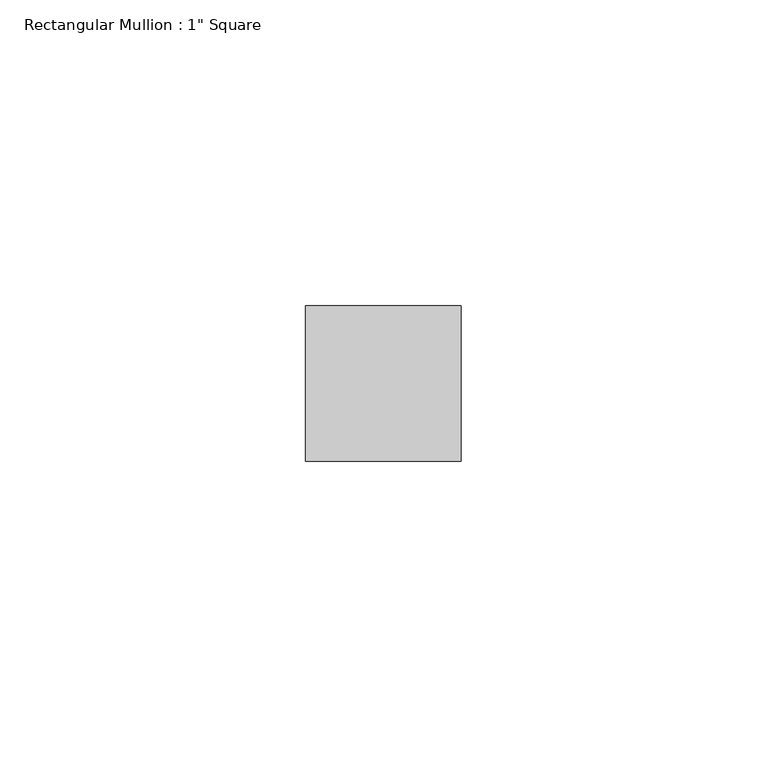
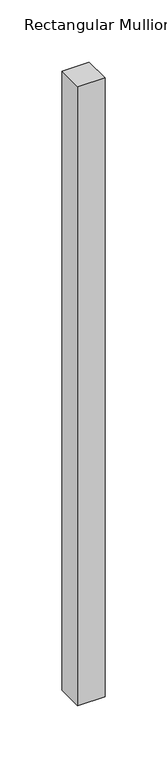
"""IFC4 building model written with IfcOpenShell, lengths in millimetres: member geometry."""

import ifcopenshell
import ifcopenshell.guid

model = None  # the IFC model being written
_history = None  # IfcOwnerHistory: only IFC2X3 demands one
_inside = {}  # id of a spatial element -> (the spatial element, [elements in it])
_under = {}  # id of a project, library or spatial element -> (it, [spatial elements below it])
_declared = {}  # id of a project -> (the project, [libraries it declares])
_typed = {}  # id of a type object -> (the type object, [elements of that type])
_made_of = {}  # id of a material, layer set ... -> (it, [elements and type objects made of it])


def new_model(schema):
    """Start an empty IFC model of exactly this schema.

    Asked for "IFC4X3", IfcOpenShell would pick the latest addendum, in which some entities
    have other attributes; the version numbers below select the first issue.
    IFC2X3 requires an IfcOwnerHistory on every rooted entity: one is made here for all.
    """
    global model, _history
    if schema == "IFC4X3":
        model = ifcopenshell.file(schema_version=(4, 3, 0, 0))
    else:
        model = ifcopenshell.file(schema=schema)
    _inside.clear()
    _under.clear()
    _declared.clear()
    _typed.clear()
    _made_of.clear()
    _history = None
    if model.schema == "IFC2X3":
        org = make("IfcOrganization", Name="unknown")
        user = make(
            "IfcPersonAndOrganization",
            ThePerson=make("IfcPerson", FamilyName="unknown"),
            TheOrganization=org,
        )
        app = make(
            "IfcApplication",
            ApplicationDeveloper=org,
            Version="unknown",
            ApplicationFullName="unknown",
            ApplicationIdentifier="unknown",
        )
        _history = make(
            "IfcOwnerHistory",
            OwningUser=user,
            OwningApplication=app,
            ChangeAction="ADDED",
            CreationDate=0,
        )
    return model


def make(cls, **values):
    """One entity of the class cls with the attributes given. An attribute that is None is left unset."""
    return model.create_entity(
        cls, **{name: value for name, value in values.items() if value is not None}
    )


def rooted(cls, **values):
    """An entity with a GlobalId (a new one), such as an element, a storey or a relation."""
    return make(cls, GlobalId=ifcopenshell.guid.new(), OwnerHistory=_history, **values)


def si_unit(unit_type, name, prefix=None):
    """IfcSIUnit, for example si_unit("LENGTHUNIT", "METRE", prefix="MILLI")."""
    return make("IfcSIUnit", UnitType=unit_type, Prefix=prefix, Name=name)


def assignment(units):
    """IfcUnitAssignment: the units of a project."""
    return None if units is None else make("IfcUnitAssignment", Units=units)


def point(xyz):
    """IfcCartesianPoint."""
    return None if xyz is None else make("IfcCartesianPoint", Coordinates=xyz)


def direction(xyz):
    """IfcDirection."""
    return None if xyz is None else make("IfcDirection", DirectionRatios=xyz)


def frame(location, z_axis=None, x_axis=None):
    """IfcAxis2Placement3D, a coordinate frame: its origin and axes. An axis left out is left unset."""
    return make(
        "IfcAxis2Placement3D",
        Location=point(location),
        Axis=direction(z_axis),
        RefDirection=direction(x_axis),
    )


def origin():
    """The frame at (0, 0, 0) with its axes left unset."""
    return frame((0.0, 0.0, 0.0))


def place(relative_to, where):
    """IfcLocalPlacement: puts the frame where relative to a parent placement (None: the world)."""
    return make(
        "IfcLocalPlacement", PlacementRelTo=relative_to, RelativePlacement=where
    )


def context(
    kind, dimensions, precision=None, world=None, true_north=None, identifier=None
):
    """IfcGeometricRepresentationContext, for example the 3D "Model" context."""
    return make(
        "IfcGeometricRepresentationContext",
        ContextIdentifier=identifier,
        ContextType=kind,
        CoordinateSpaceDimension=dimensions,
        Precision=precision,
        WorldCoordinateSystem=world,
        TrueNorth=true_north,
    )


def project(units=None, contexts=None):
    """IfcProject with its units and contexts."""
    return rooted(
        "IfcProject",
        Name="project",
        RepresentationContexts=contexts,
        UnitsInContext=assignment(units),
    )


def spatial(cls, under=None, at=None, **own):
    """A site, building, storey or space (cls), placed at a placement, below another one or the project."""
    s = rooted(cls, ObjectPlacement=at, **own)
    if under is not None:
        _under.setdefault(under.id(), (under, []))[1].append(s)
    return s


def polyline(points):
    """IfcPolyline through the points."""
    return make("IfcPolyline", Points=[point(p) for p in points])


def outline(outer, holes=None, kind="AREA"):
    """IfcArbitraryClosedProfileDef: a profile drawn as a closed curve; with holes, ...WithVoids."""
    if holes is None:
        return make("IfcArbitraryClosedProfileDef", ProfileType=kind, OuterCurve=outer)
    return make(
        "IfcArbitraryProfileDefWithVoids",
        ProfileType=kind,
        OuterCurve=outer,
        InnerCurves=holes,
    )


def extrude(swept, where, along, depth):
    """IfcExtrudedAreaSolid: the profile swept, set in the frame where, extruded along a direction by depth."""
    return make(
        "IfcExtrudedAreaSolid",
        SweptArea=swept,
        Position=where,
        ExtrudedDirection=direction(along),
        Depth=depth,
    )


def shape(context_of_items, identifier, shape_type, items):
    """IfcShapeRepresentation: the items that make up one representation, for example the "Body"."""
    return make(
        "IfcShapeRepresentation",
        ContextOfItems=context_of_items,
        RepresentationIdentifier=identifier,
        RepresentationType=shape_type,
        Items=items,
    )


def source(mapping_origin, context_of_items, identifier, shape_type, items):
    """IfcRepresentationMap: a shape defined once, which mapped items show again and again."""
    return make(
        "IfcRepresentationMap",
        MappingOrigin=mapping_origin,
        MappedRepresentation=shape(context_of_items, identifier, shape_type, items),
    )


def transform(
    local_origin,
    x_axis=None,
    y_axis=None,
    z_axis=None,
    scale=None,
    scale2=None,
    scale3=None,
    uniform=True,
):
    """IfcCartesianTransformationOperator3D, or its non-uniform kind. x_axis, y_axis, z_axis: its Axis1, 2, 3."""
    if uniform:
        return make(
            "IfcCartesianTransformationOperator3D",
            Axis1=direction(x_axis),
            Axis2=direction(y_axis),
            LocalOrigin=point(local_origin),
            Scale=scale,
            Axis3=direction(z_axis),
        )
    return make(
        "IfcCartesianTransformationOperator3DnonUniform",
        Axis1=direction(x_axis),
        Axis2=direction(y_axis),
        LocalOrigin=point(local_origin),
        Scale=scale,
        Axis3=direction(z_axis),
        Scale2=scale2,
        Scale3=scale3,
    )


def mapped(mapping_source, mapping_target):
    """IfcMappedItem: shows the shape of a source again, moved by a transform."""
    return make(
        "IfcMappedItem", MappingSource=mapping_source, MappingTarget=mapping_target
    )


def made_of(thing, what):
    """Note that an element or type object is made of a material, layer set ...; save() writes the relation."""
    if what is not None:
        _made_of.setdefault(what.id(), (what, []))[1].append(thing)
    return thing


def element(
    cls,
    number,
    at=None,
    inside=None,
    cuts=None,
    type_object=None,
    material=None,
    context=None,
    identifier="Body",
    shape_type=None,
    held_by="IfcProductDefinitionShape",
    body=None,
    shapes=None,
    **own,
):
    """One element of the class cls, such as IfcWall. Its Tag is "e" and its number.

    at: its placement. inside: the storey or other place that contains it. cuts: it is an
    opening in that element (IfcRelVoidsElement). A single representation is given by context,
    identifier, shape_type and body (its items); several are given by shapes. held_by: the class
    of the entity that holds the representations. save() writes the other relations.
    """
    e = rooted(cls, Tag="e%d" % number, ObjectPlacement=at, **own)
    if body is not None:
        shapes = [shape(context, identifier, shape_type, body)]
    if shapes is not None:
        e.Representation = make(held_by, Representations=shapes)
    if inside is not None:
        _inside.setdefault(inside.id(), (inside, []))[1].append(e)
    if cuts is not None:
        rooted(
            "IfcRelVoidsElement", RelatingBuildingElement=cuts, RelatedOpeningElement=e
        )
    if type_object is not None:
        _typed.setdefault(type_object.id(), (type_object, []))[1].append(e)
    return made_of(e, material)


def aggregate(whole, parts):
    """IfcRelAggregates: a whole, such as a stair, and the parts it consists of."""
    return rooted("IfcRelAggregates", RelatingObject=whole, RelatedObjects=parts)


def save(model, path):
    """Write the relations noted so far, then the file.

    IfcRelAggregates (storeys below a building ...), IfcRelContainedInSpatialStructure (elements
    in a storey), IfcRelDefinesByType, IfcRelAssociatesMaterial and IfcRelDeclares: one each for
    every whole, place, type object, material and project.
    """
    for whole, parts in _under.values():
        aggregate(whole, parts)
    for where, things in _inside.values():
        rooted(
            "IfcRelContainedInSpatialStructure",
            RelatedElements=things,
            RelatingStructure=where,
        )
    for kind, things in _typed.values():
        rooted("IfcRelDefinesByType", RelatedObjects=things, RelatingType=kind)
    for what, things in _made_of.values():
        rooted("IfcRelAssociatesMaterial", RelatedObjects=things, RelatingMaterial=what)
    for by, libraries in _declared.values():
        rooted("IfcRelDeclares", RelatingContext=by, RelatedDefinitions=libraries)
    model.write(path)


def member_2936114a(model_context):
    return source(origin(), model_context, "Body", "SweptSolid", [
        extrude(outline(polyline([(12.7, -19.05), (12.7, -44.45), (-12.7, -44.45), (-12.7, -19.05), (12.7, -19.05)])), frame((0.0, 0.0, -609.6), z_axis=(0.0, 0.0, 1.0), x_axis=(1.0, 0.0, 0.0)), (0.0, 0.0, 1.0), 609.6),
    ])


if __name__ == "__main__":
    model = new_model("IFC4")
    model_context = context("Model", 3, world=origin())
    ifc_project = project(units=[si_unit("LENGTHUNIT", "METRE", prefix="MILLI")], contexts=[model_context])
    site = spatial("IfcSite", under=ifc_project)
    building = spatial("IfcBuilding", under=site)
    placement = place(None, origin())
    member_shape = member_2936114a(model_context)
    element("IfcMember", 1, ObjectType="Rectangular Mullion : 1\" Square", at=placement, inside=building, context=model_context, shape_type="MappedRepresentation", body=[
        mapped(member_shape, transform((0.0, 0.0, 0.0), x_axis=(1.0, 0.0, 0.0), y_axis=(0.0, 1.0, 0.0), z_axis=(0.0, 0.0, 1.0))),
    ])
    save(model, "model.ifc")
